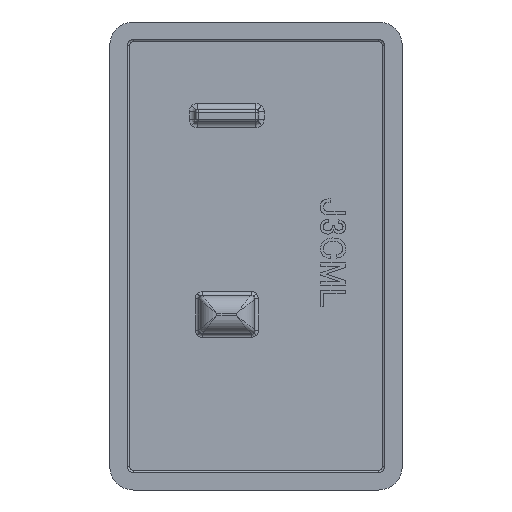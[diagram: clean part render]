
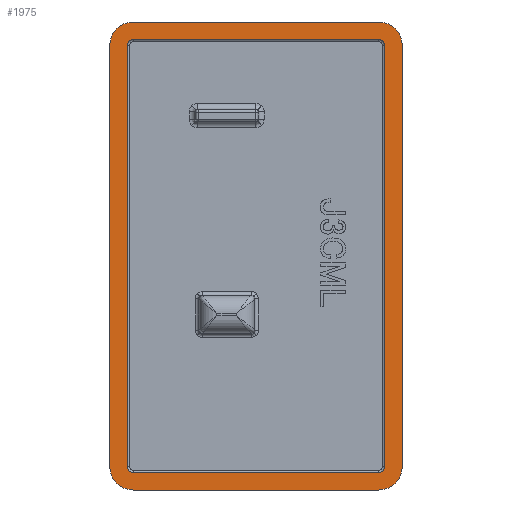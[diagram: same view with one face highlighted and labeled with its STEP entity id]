
A CAD part, front view. The second image highlights one B-rep face of the part: STEP entity #1975.
In plain terms, the highlighted planar face has unit normal (0, -1, 0).
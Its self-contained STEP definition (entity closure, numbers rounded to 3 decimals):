
#26 = DIRECTION ( 'NONE',  ( 0., 1., 0. ) ) ;
#27 = CARTESIAN_POINT ( 'NONE',  ( 25., 0., -38. ) ) ;
#66 = VERTEX_POINT ( 'NONE', #3089 ) ;
#126 = ORIENTED_EDGE ( 'NONE', *, *, #544, .F. ) ;
#147 = LINE ( 'NONE', #4069, #5785 ) ;
#247 = CARTESIAN_POINT ( 'NONE',  ( 25., 0., -2. ) ) ;
#393 = DIRECTION ( 'NONE',  ( 0., 0., 1. ) ) ;
#443 = EDGE_LOOP ( 'NONE', ( #5359, #4360, #2591, #4389, #126, #3246, #2951, #3891 ) ) ;
#544 = EDGE_CURVE ( 'NONE', #3545, #66, #147, .T. ) ;
#600 = AXIS2_PLACEMENT_3D ( 'NONE', #5188, #1901, #5720 ) ;
#669 = CIRCLE ( 'NONE', #780, 2. ) ;
#719 = DIRECTION ( 'NONE',  ( 0., 1., 0. ) ) ;
#780 = AXIS2_PLACEMENT_3D ( 'NONE', #5498, #2236, #6041 ) ;
#831 = DIRECTION ( 'NONE',  ( 1., 0., 0. ) ) ;
#967 = EDGE_CURVE ( 'NONE', #5262, #4096, #5324, .T. ) ;
#977 = EDGE_CURVE ( 'NONE', #2450, #4300, #6740, .T. ) ;
#1023 = VECTOR ( 'NONE', #2919, 1000. ) ;
#1061 = ORIENTED_EDGE ( 'NONE', *, *, #5340, .F. ) ;
#1067 = VERTEX_POINT ( 'NONE', #2756 ) ;
#1092 = ORIENTED_EDGE ( 'NONE', *, *, #3469, .F. ) ;
#1227 = CARTESIAN_POINT ( 'NONE',  ( 1.5, 0., -38. ) ) ;
#1280 = VECTOR ( 'NONE', #4682, 1000. ) ;
#1359 = AXIS2_PLACEMENT_3D ( 'NONE', #2977, #6766, #3529 ) ;
#1379 = CARTESIAN_POINT ( 'NONE',  ( 0., 0., -2. ) ) ;
#1389 = VERTEX_POINT ( 'NONE', #3967 ) ;
#1402 = EDGE_CURVE ( 'NONE', #5163, #5262, #669, .T. ) ;
#1418 = CARTESIAN_POINT ( 'NONE',  ( 23.5, 0., -2. ) ) ;
#1625 = VERTEX_POINT ( 'NONE', #2356 ) ;
#1862 = EDGE_CURVE ( 'NONE', #3545, #6218, #5701, .T. ) ;
#1901 = DIRECTION ( 'NONE',  ( 0., 1., 0. ) ) ;
#1975 = ADVANCED_FACE ( 'NONE', ( #2800, #4859 ), #5276, .F. ) ;
#2125 = CIRCLE ( 'NONE', #5880, 2. ) ;
#2212 = VERTEX_POINT ( 'NONE', #2401 ) ;
#2236 = DIRECTION ( 'NONE',  ( 0., 1., 0. ) ) ;
#2292 = CIRCLE ( 'NONE', #2957, 0.5 ) ;
#2356 = CARTESIAN_POINT ( 'NONE',  ( 23.5, 0., -38. ) ) ;
#2363 = DIRECTION ( 'NONE',  ( -1., 0., 0. ) ) ;
#2401 = CARTESIAN_POINT ( 'NONE',  ( 0., 0., -38. ) ) ;
#2450 = VERTEX_POINT ( 'NONE', #4273 ) ;
#2485 = CARTESIAN_POINT ( 'NONE',  ( 23., 0., -2. ) ) ;
#2583 = VECTOR ( 'NONE', #831, 1000. ) ;
#2591 = ORIENTED_EDGE ( 'NONE', *, *, #977, .F. ) ;
#2593 = EDGE_CURVE ( 'NONE', #5315, #3370, #5321, .T. ) ;
#2688 = EDGE_CURVE ( 'NONE', #2450, #66, #4802, .T. ) ;
#2756 = CARTESIAN_POINT ( 'NONE',  ( 2., 0., -40. ) ) ;
#2781 = CARTESIAN_POINT ( 'NONE',  ( 2., 0., -38. ) ) ;
#2800 = FACE_BOUND ( 'NONE', #443, .T. ) ;
#2867 = CARTESIAN_POINT ( 'NONE',  ( 23., 0., -38. ) ) ;
#2919 = DIRECTION ( 'NONE',  ( 0., 0., 1. ) ) ;
#2951 = ORIENTED_EDGE ( 'NONE', *, *, #3566, .F. ) ;
#2957 = AXIS2_PLACEMENT_3D ( 'NONE', #3983, #719, #4549 ) ;
#2977 = CARTESIAN_POINT ( 'NONE',  ( 23., 0., -2. ) ) ;
#3028 = DIRECTION ( 'NONE',  ( 0., 0., 1. ) ) ;
#3031 = CARTESIAN_POINT ( 'NONE',  ( 2., 0., 0. ) ) ;
#3060 = LINE ( 'NONE', #4826, #5782 ) ;
#3089 = CARTESIAN_POINT ( 'NONE',  ( 2., 0., -1.5 ) ) ;
#3220 = VECTOR ( 'NONE', #2363, 1000. ) ;
#3246 = ORIENTED_EDGE ( 'NONE', *, *, #1862, .T. ) ;
#3302 = CARTESIAN_POINT ( 'NONE',  ( 2., 0., -38. ) ) ;
#3340 = DIRECTION ( 'NONE',  ( 0., 0., 1. ) ) ;
#3370 = VERTEX_POINT ( 'NONE', #27 ) ;
#3384 = DIRECTION ( 'NONE',  ( 0., 0., -1. ) ) ;
#3419 = DIRECTION ( 'NONE',  ( 0., 0., 1. ) ) ;
#3469 = EDGE_CURVE ( 'NONE', #3370, #3776, #4440, .T. ) ;
#3529 = DIRECTION ( 'NONE',  ( 0., 0., 1. ) ) ;
#3545 = VERTEX_POINT ( 'NONE', #6175 ) ;
#3566 = EDGE_CURVE ( 'NONE', #1625, #6218, #5394, .T. ) ;
#3663 = DIRECTION ( 'NONE',  ( 0., 1., 0. ) ) ;
#3685 = AXIS2_PLACEMENT_3D ( 'NONE', #2781, #6578, #3340 ) ;
#3719 = CIRCLE ( 'NONE', #3685, 0.5 ) ;
#3754 = CARTESIAN_POINT ( 'NONE',  ( 0., 0., -2. ) ) ;
#3766 = CARTESIAN_POINT ( 'NONE',  ( 23., 0., -40. ) ) ;
#3776 = VERTEX_POINT ( 'NONE', #3766 ) ;
#3830 = CARTESIAN_POINT ( 'NONE',  ( 2., 0., -38.5 ) ) ;
#3845 = DIRECTION ( 'NONE',  ( 0., 0., 1. ) ) ;
#3891 = ORIENTED_EDGE ( 'NONE', *, *, #5268, .T. ) ;
#3892 = CIRCLE ( 'NONE', #6338, 2. ) ;
#3927 = CARTESIAN_POINT ( 'NONE',  ( 25., 0., -2. ) ) ;
#3967 = CARTESIAN_POINT ( 'NONE',  ( 23., 0., -38.5 ) ) ;
#3983 = CARTESIAN_POINT ( 'NONE',  ( 23., 0., -38. ) ) ;
#4069 = CARTESIAN_POINT ( 'NONE',  ( 1.5, 0., -1.5 ) ) ;
#4096 = VERTEX_POINT ( 'NONE', #4535 ) ;
#4141 = ORIENTED_EDGE ( 'NONE', *, *, #967, .F. ) ;
#4273 = CARTESIAN_POINT ( 'NONE',  ( 1.5, 0., -2. ) ) ;
#4300 = VERTEX_POINT ( 'NONE', #1227 ) ;
#4360 = ORIENTED_EDGE ( 'NONE', *, *, #6724, .T. ) ;
#4389 = ORIENTED_EDGE ( 'NONE', *, *, #2688, .T. ) ;
#4429 = ORIENTED_EDGE ( 'NONE', *, *, #6832, .F. ) ;
#4440 = CIRCLE ( 'NONE', #6670, 2. ) ;
#4516 = EDGE_LOOP ( 'NONE', ( #5714, #4429, #1092, #6933, #1061, #4141, #5360, #6364 ) ) ;
#4535 = CARTESIAN_POINT ( 'NONE',  ( 23., 0., 0. ) ) ;
#4549 = DIRECTION ( 'NONE',  ( 0., 0., 1. ) ) ;
#4673 = LINE ( 'NONE', #6186, #3220 ) ;
#4682 = DIRECTION ( 'NONE',  ( 0., 0., -1. ) ) ;
#4802 = CIRCLE ( 'NONE', #600, 0.5 ) ;
#4826 = CARTESIAN_POINT ( 'NONE',  ( 1.5, 0., -38.5 ) ) ;
#4859 = FACE_OUTER_BOUND ( 'NONE', #4516, .T. ) ;
#4903 = EDGE_CURVE ( 'NONE', #2212, #5163, #6535, .T. ) ;
#5119 = VECTOR ( 'NONE', #5759, 1000. ) ;
#5163 = VERTEX_POINT ( 'NONE', #3754 ) ;
#5188 = CARTESIAN_POINT ( 'NONE',  ( 2., 0., -2. ) ) ;
#5262 = VERTEX_POINT ( 'NONE', #5608 ) ;
#5268 = EDGE_CURVE ( 'NONE', #1625, #1389, #2292, .T. ) ;
#5276 = PLANE ( 'NONE',  #6487 ) ;
#5315 = VERTEX_POINT ( 'NONE', #247 ) ;
#5321 = LINE ( 'NONE', #3927, #6902 ) ;
#5324 = LINE ( 'NONE', #3031, #2583 ) ;
#5340 = EDGE_CURVE ( 'NONE', #4096, #5315, #2125, .T. ) ;
#5359 = ORIENTED_EDGE ( 'NONE', *, *, #5430, .F. ) ;
#5360 = ORIENTED_EDGE ( 'NONE', *, *, #1402, .F. ) ;
#5394 = LINE ( 'NONE', #6759, #1023 ) ;
#5430 = EDGE_CURVE ( 'NONE', #5506, #1389, #3060, .T. ) ;
#5498 = CARTESIAN_POINT ( 'NONE',  ( 2., 0., -2. ) ) ;
#5506 = VERTEX_POINT ( 'NONE', #3830 ) ;
#5608 = CARTESIAN_POINT ( 'NONE',  ( 2., 0., 0. ) ) ;
#5701 = CIRCLE ( 'NONE', #1359, 0.5 ) ;
#5714 = ORIENTED_EDGE ( 'NONE', *, *, #5892, .F. ) ;
#5716 = DIRECTION ( 'NONE',  ( -1., 0., 0. ) ) ;
#5720 = DIRECTION ( 'NONE',  ( 0., 0., 1. ) ) ;
#5759 = DIRECTION ( 'NONE',  ( 0., 0., 1. ) ) ;
#5782 = VECTOR ( 'NONE', #5913, 1000. ) ;
#5785 = VECTOR ( 'NONE', #5716, 1000. ) ;
#5832 = CARTESIAN_POINT ( 'NONE',  ( 2., 0., -38. ) ) ;
#5880 = AXIS2_PLACEMENT_3D ( 'NONE', #2485, #6286, #3028 ) ;
#5892 = EDGE_CURVE ( 'NONE', #1067, #2212, #3892, .T. ) ;
#5913 = DIRECTION ( 'NONE',  ( 1., 0., 0. ) ) ;
#6041 = DIRECTION ( 'NONE',  ( 0., 0., 1. ) ) ;
#6175 = CARTESIAN_POINT ( 'NONE',  ( 23., 0., -1.5 ) ) ;
#6186 = CARTESIAN_POINT ( 'NONE',  ( 2., 0., -40. ) ) ;
#6218 = VERTEX_POINT ( 'NONE', #1418 ) ;
#6286 = DIRECTION ( 'NONE',  ( 0., 1., 0. ) ) ;
#6338 = AXIS2_PLACEMENT_3D ( 'NONE', #3302, #26, #3845 ) ;
#6364 = ORIENTED_EDGE ( 'NONE', *, *, #4903, .F. ) ;
#6487 = AXIS2_PLACEMENT_3D ( 'NONE', #5832, #3663, #393 ) ;
#6535 = LINE ( 'NONE', #1379, #5119 ) ;
#6578 = DIRECTION ( 'NONE',  ( 0., 1., 0. ) ) ;
#6657 = DIRECTION ( 'NONE',  ( 0., 1., 0. ) ) ;
#6670 = AXIS2_PLACEMENT_3D ( 'NONE', #2867, #6657, #3419 ) ;
#6724 = EDGE_CURVE ( 'NONE', #5506, #4300, #3719, .T. ) ;
#6740 = LINE ( 'NONE', #6867, #1280 ) ;
#6759 = CARTESIAN_POINT ( 'NONE',  ( 23.5, 0., -38.5 ) ) ;
#6766 = DIRECTION ( 'NONE',  ( 0., 1., 0. ) ) ;
#6832 = EDGE_CURVE ( 'NONE', #3776, #1067, #4673, .T. ) ;
#6867 = CARTESIAN_POINT ( 'NONE',  ( 1.5, 0., -38.5 ) ) ;
#6902 = VECTOR ( 'NONE', #3384, 1000. ) ;
#6933 = ORIENTED_EDGE ( 'NONE', *, *, #2593, .F. ) ;
